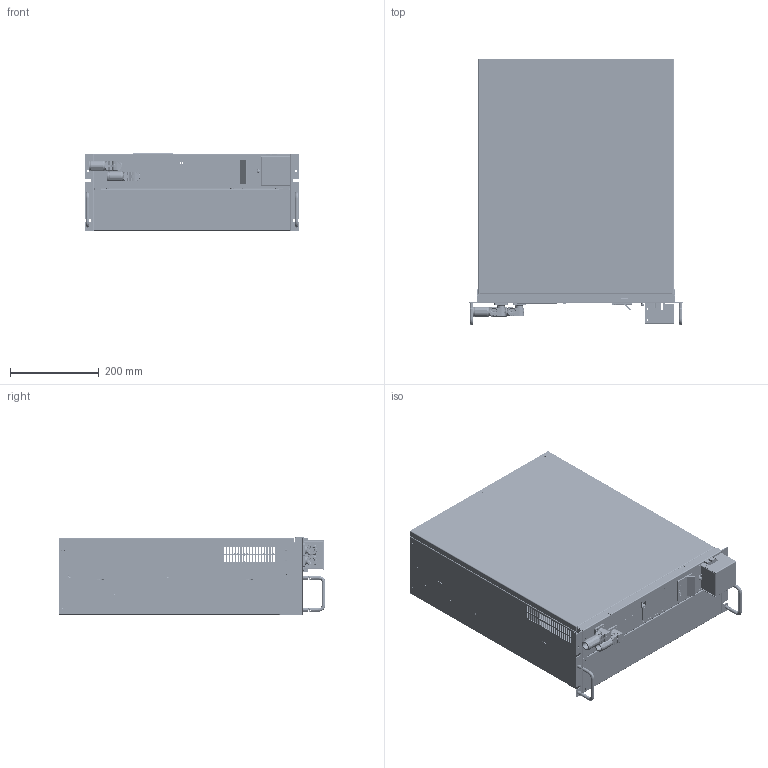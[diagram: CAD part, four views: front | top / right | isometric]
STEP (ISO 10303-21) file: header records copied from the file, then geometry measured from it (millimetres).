
FILE_DESCRIPTION((''),'2;1');
FILE_NAME('DMSH41060269_ZZ_ASM','2020-03-12T',('Administrator'),('Sinexcel'),'PRO/ENGINEER BY PARAMETRIC TECHNOLOGY CORPORATION, 2014320','PRO/ENGINEER BY PARAMETRIC TECHNOLOGY CORPORATION, 2014320','');
FILE_SCHEMA(('CONFIG_CONTROL_DESIGN'));
Products named in the file (80): DMSH85101716; S-M4-ZC; BSO-3_5M4-6-ZC; BSO-3_5M3-8-ZC; DMSH85101716_ASM; DMSH85101717; SO-3_5M4-6-ZC; DMSH85101717_ASM; DMSH80320367; S-M5-ZC; DMSH80320367_ASM; DMSH80400471; FH-M3-10-ZC; DMSH80400471_ASM; DMSH66000711_ASM; DMSH85101736; BSO-3_5M3-10-ZC; DMSH85101736_ASM; DMSH85101737; SO-3_5M3-4_5-ZC; DMSH85101737_ASM; DMSH85102864; DMSH85102864_ASM; DMSH61500097_ASM; DMSH80200351; FH-M3-8-ZC; DMSH80200351_ASM; DMSH86200567; DMSH86200567_ASM; DMSH86200571; DMSH86200571_ASM; DMSH89900109; DMSH85101760; DMSH85101760_ASM; DMSH86101002; DMSH86101002_ASM; DMSH86700467; DMSH86700467_ASM; DMSH86700468; DMSH86700468_ASM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
Assembly tree (310 placements, depth 5):
  DMSH41060269_ZZ_ASM
    DMSH41060269_ASM
      DMSH85101716_ASM
        DMSH85101716
        S-M4-ZC  x19
        BSO-3_5M4-6-ZC  x7
        BSO-3_5M3-8-ZC  x12
      DMSH85101717_ASM
        DMSH85101717
        S-M4-ZC  x9
        SO-3_5M4-6-ZC  x9
      DMSH80320367_ASM
        DMSH80320367
        S-M4-ZC  x10
        S-M5-ZC  x2
      DMSH66000711_ASM
        DMSH80400471_ASM
          DMSH80400471
          FH-M3-10-ZC  x4
          S-M4-ZC
      DMSH85101736_ASM
        DMSH85101736
        S-M4-ZC  x8
        BSO-3_5M3-10-ZC  x2
      DMSH61500097_ASM
        DMSH85101737_ASM
          DMSH85101737
          S-M4-ZC  x10
          SO-3_5M4-6-ZC  x22
          SO-3_5M3-4_5-ZC  x6
        DMSH85102864_ASM
          DMSH85102864
      DMSH80200351_ASM
        DMSH80200351
        FH-M3-8-ZC  x6
      DMSH86200567_ASM
        DMSH86200567
      DMSH86200571_ASM
        DMSH86200571
      DMSH89900109  x2
      DMSH85101760_ASM
        DMSH85101760
      DMSH86101002_ASM
        DMSH86101002
        BSO-3_5M4-6-ZC  x4
      DMSH86700467_ASM
        DMSH86700467
      DMSH86700468_ASM  x2
        DMSH86700468
      DMSH86700473_ASM
        DMSH86700473
      DMSH86700475_ASM
        DMSH86700475
      DMSH86700590_ASM
        DMSH86700590
      DMSH85101903_ASM
        DMSH85101903
        S-M4-ZC  x4
        FH-M4-10-ZC  x8
        BSO-3_5M3-10-ZC  x2
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Bounding box: 482.6 x 599 x 174 mm (x, y, z)
Volume: 2792050.6 mm3; surface area: 3664124.8 mm2
Topology: 277 solids, 337 shells, 24123 faces, 65952 edges, 43550 vertices
Faces by surface type: plane 19537, cylinder 3342, cone 552, torus 358, bspline 214, sphere 114, extrusion 6
Entity records: 332681 total; most frequent: CARTESIAN_POINT 80711, ORIENTED_EDGE 52414, DIRECTION 50156, EDGE_CURVE 26603, VECTOR 19612, LINE 19606, VERTEX_POINT 17554, AXIS2_PLACEMENT_3D 15272
